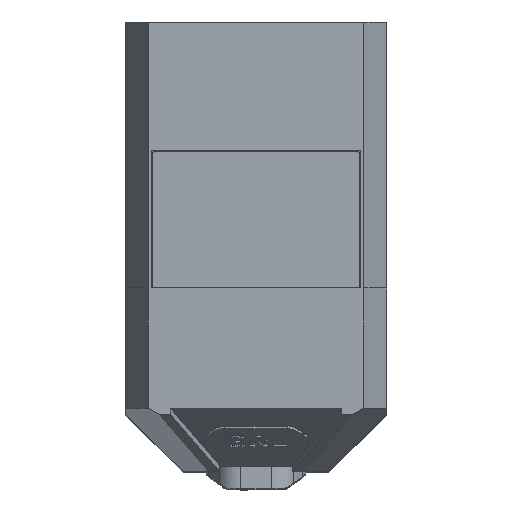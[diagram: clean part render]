
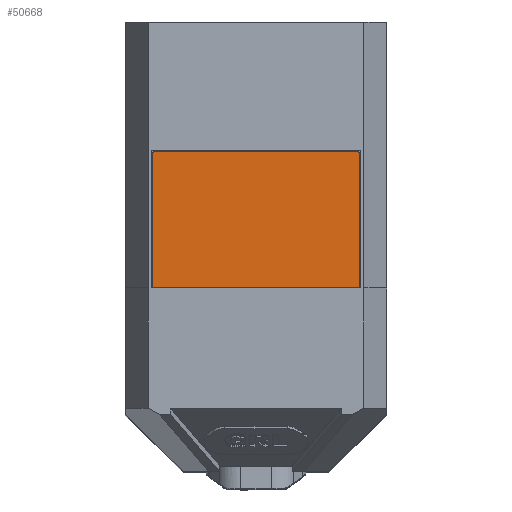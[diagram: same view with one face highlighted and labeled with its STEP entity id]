
A CAD part, top view. The second image highlights one B-rep face of the part: STEP entity #50668.
In plain terms, the highlighted planar face has unit normal (0, 0, 1).
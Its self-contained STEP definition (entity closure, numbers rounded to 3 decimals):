
#953 = CARTESIAN_POINT ( 'NONE',  ( 3.044, -14.047, 188.177 ) ) ;
#1152 = VERTEX_POINT ( 'NONE', #3280 ) ;
#1781 = CARTESIAN_POINT ( 'NONE',  ( 45.394, -13.547, 188.177 ) ) ;
#2056 = ORIENTED_EDGE ( 'NONE', *, *, #26530, .F. ) ;
#3280 = CARTESIAN_POINT ( 'NONE',  ( 45.244, -41.847, 188.177 ) ) ;
#4489 = PLANE ( 'NONE',  #41134 ) ;
#5145 = DIRECTION ( 'NONE',  ( 0., -1., 0. ) ) ;
#6232 = CARTESIAN_POINT ( 'NONE',  ( 2.544, -14.047, 188.177 ) ) ;
#7586 = EDGE_CURVE ( 'NONE', #12455, #22929, #43878, .T. ) ;
#8317 = VERTEX_POINT ( 'NONE', #13410 ) ;
#8383 = CIRCLE ( 'NONE', #29658, 0.5 ) ;
#9503 = VERTEX_POINT ( 'NONE', #54016 ) ;
#9583 = CARTESIAN_POINT ( 'NONE',  ( 44.744, -14.047, 188.177 ) ) ;
#10654 = DIRECTION ( 'NONE',  ( 1., 0., 0. ) ) ;
#12455 = VERTEX_POINT ( 'NONE', #14945 ) ;
#12787 = VECTOR ( 'NONE', #14797, 1000. ) ;
#13410 = CARTESIAN_POINT ( 'NONE',  ( 44.744, -13.547, 188.177 ) ) ;
#14797 = DIRECTION ( 'NONE',  ( 0., -1., 0. ) ) ;
#14945 = CARTESIAN_POINT ( 'NONE',  ( 2.544, -41.847, 188.177 ) ) ;
#17268 = FACE_OUTER_BOUND ( 'NONE', #33794, .T. ) ;
#17679 = ORIENTED_EDGE ( 'NONE', *, *, #7586, .F. ) ;
#18434 = LINE ( 'NONE', #1781, #25912 ) ;
#20379 = EDGE_CURVE ( 'NONE', #9503, #1152, #35886, .T. ) ;
#22296 = DIRECTION ( 'NONE',  ( 0., 1., 0. ) ) ;
#22614 = AXIS2_PLACEMENT_3D ( 'NONE', #953, #47019, #22296 ) ;
#22835 = EDGE_CURVE ( 'NONE', #8317, #9503, #8383, .T. ) ;
#22929 = VERTEX_POINT ( 'NONE', #6232 ) ;
#23168 = ORIENTED_EDGE ( 'NONE', *, *, #20379, .F. ) ;
#25912 = VECTOR ( 'NONE', #10654, 1000. ) ;
#26148 = CIRCLE ( 'NONE', #22614, 0.5 ) ;
#26393 = DIRECTION ( 'NONE',  ( 0., 1., 0. ) ) ;
#26530 = EDGE_CURVE ( 'NONE', #22929, #33644, #26148, .T. ) ;
#26766 = DIRECTION ( 'NONE',  ( 0., 0., -1. ) ) ;
#28845 = ORIENTED_EDGE ( 'NONE', *, *, #34381, .F. ) ;
#29624 = LINE ( 'NONE', #51259, #40755 ) ;
#29658 = AXIS2_PLACEMENT_3D ( 'NONE', #9583, #26766, #5145 ) ;
#30075 = ORIENTED_EDGE ( 'NONE', *, *, #38987, .F. ) ;
#30568 = DIRECTION ( 'NONE',  ( 0., 0., -1. ) ) ;
#30778 = CARTESIAN_POINT ( 'NONE',  ( 3.044, -13.547, 188.177 ) ) ;
#30804 = CARTESIAN_POINT ( 'NONE',  ( 2.544, -23.347, 188.177 ) ) ;
#33644 = VERTEX_POINT ( 'NONE', #30778 ) ;
#33794 = EDGE_LOOP ( 'NONE', ( #28845, #2056, #17679, #30075, #23168, #45981 ) ) ;
#34381 = EDGE_CURVE ( 'NONE', #33644, #8317, #18434, .T. ) ;
#35886 = LINE ( 'NONE', #49460, #12787 ) ;
#37684 = DIRECTION ( 'NONE',  ( -1., 0., 0. ) ) ;
#38987 = EDGE_CURVE ( 'NONE', #1152, #12455, #29624, .T. ) ;
#39690 = DIRECTION ( 'NONE',  ( 0., 1., 0. ) ) ;
#40755 = VECTOR ( 'NONE', #37684, 1000. ) ;
#41134 = AXIS2_PLACEMENT_3D ( 'NONE', #46946, #30568, #26393 ) ;
#43041 = VECTOR ( 'NONE', #39690, 1000. ) ;
#43878 = LINE ( 'NONE', #30804, #43041 ) ;
#45981 = ORIENTED_EDGE ( 'NONE', *, *, #22835, .F. ) ;
#46946 = CARTESIAN_POINT ( 'NONE',  ( 45.394, -23.347, 188.177 ) ) ;
#47019 = DIRECTION ( 'NONE',  ( 0., 0., -1. ) ) ;
#49460 = CARTESIAN_POINT ( 'NONE',  ( 45.244, -23.347, 188.177 ) ) ;
#50668 = ADVANCED_FACE ( 'NONE', ( #17268 ), #4489, .F. ) ;
#51259 = CARTESIAN_POINT ( 'NONE',  ( -3.106, -41.847, 188.177 ) ) ;
#54016 = CARTESIAN_POINT ( 'NONE',  ( 45.244, -14.047, 188.177 ) ) ;
